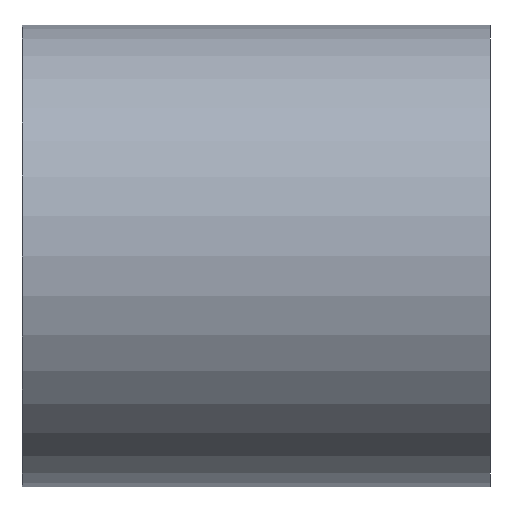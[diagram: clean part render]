
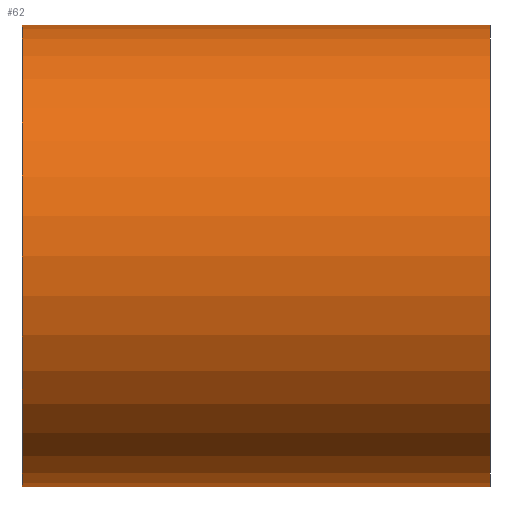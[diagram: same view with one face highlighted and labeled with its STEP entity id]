
A CAD part, left-side view. The second image highlights one B-rep face of the part: STEP entity #62.
In plain terms, the highlighted cylindrical face has radius 9.525 mm (diameter 19.05 mm), a full revolution.
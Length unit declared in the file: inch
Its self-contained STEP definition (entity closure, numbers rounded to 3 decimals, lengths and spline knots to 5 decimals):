
#20=FACE_OUTER_BOUND('',#24,.T.);
#24=EDGE_LOOP('',(#51,#52,#53,#54));
#30=LINE('',#118,#32);
#32=VECTOR('',#100,0.375);
#35=CIRCLE('',#83,0.375);
#36=CIRCLE('',#84,0.375);
#39=VERTEX_POINT('',#115);
#40=VERTEX_POINT('',#117);
#44=EDGE_CURVE('',#39,#39,#35,.T.);
#45=EDGE_CURVE('',#39,#40,#30,.T.);
#46=EDGE_CURVE('',#40,#40,#36,.T.);
#51=ORIENTED_EDGE('',*,*,#44,.F.);
#52=ORIENTED_EDGE('',*,*,#45,.T.);
#53=ORIENTED_EDGE('',*,*,#46,.T.);
#54=ORIENTED_EDGE('',*,*,#45,.F.);
#60=CYLINDRICAL_SURFACE('',#82,0.375);
#62=ADVANCED_FACE('',(#20),#60,.T.);
#82=AXIS2_PLACEMENT_3D('',#114,#96,#97);
#83=AXIS2_PLACEMENT_3D('',#116,#98,#99);
#84=AXIS2_PLACEMENT_3D('',#119,#101,#102);
#96=DIRECTION('center_axis',(0.,1.,0.));
#97=DIRECTION('ref_axis',(1.,0.,0.));
#98=DIRECTION('center_axis',(0.,1.,0.));
#99=DIRECTION('ref_axis',(1.,0.,0.));
#100=DIRECTION('',(0.,-1.,0.));
#101=DIRECTION('center_axis',(0.,1.,0.));
#102=DIRECTION('ref_axis',(1.,0.,0.));
#114=CARTESIAN_POINT('Origin',(0.,0.,0.));
#115=CARTESIAN_POINT('',(-0.375,0.76,0.));
#116=CARTESIAN_POINT('Origin',(0.,0.76,0.));
#117=CARTESIAN_POINT('',(-0.375,0.,0.));
#118=CARTESIAN_POINT('',(-0.375,0.,0.));
#119=CARTESIAN_POINT('Origin',(0.,0.,0.));
